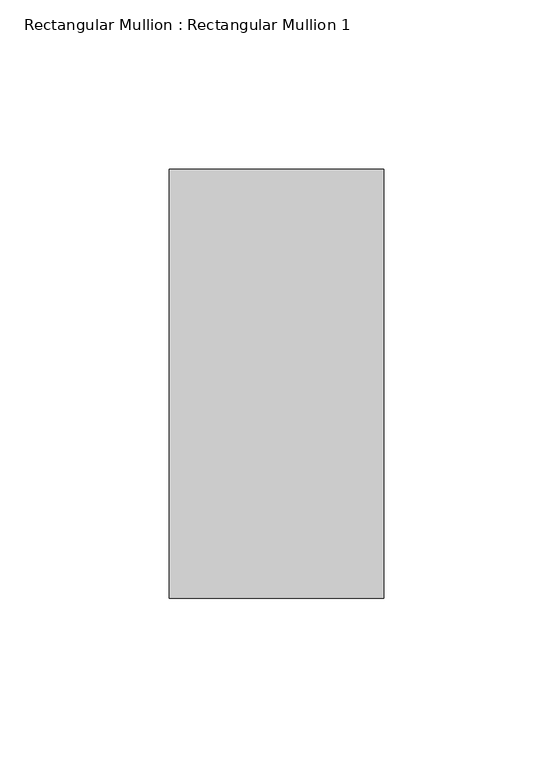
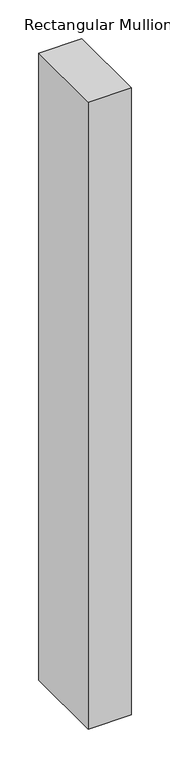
"""IFC4 building model written with IfcOpenShell, lengths in millimetres: member geometry, Rectangular Mullion : Rectangular Mullion 1."""

from ifc_helpers import new_model, si_unit, frame, origin, place, context, project, spatial, polyline, outline, extrude, source, transform, mapped, element, save


def rectangular_mullion_rectangular_mullion_1_ab2acac1(model_context):
    return source(origin(), model_context, "Body", "SweptSolid", [
        extrude(outline(polyline([(0.0, 63.5), (0.0, -63.5), (-63.5, -63.5), (-63.5, 63.5), (0.0, 63.5)])), frame((0.0, 0.0, -984.2499998), z_axis=(0.0, 0.0, 1.0), x_axis=(1.0, 0.0, 0.0)), (0.0, 0.0, 1.0), 984.2499998),
    ])


if __name__ == "__main__":
    model = new_model("IFC4")
    model_context = context("Model", 3, world=origin())
    ifc_project = project(units=[si_unit("LENGTHUNIT", "METRE", prefix="MILLI")], contexts=[model_context])
    site = spatial("IfcSite", under=ifc_project)
    building = spatial("IfcBuilding", under=site)
    placement = place(None, origin())
    rectangular_mullion_rectangular_mullion_1_shape = rectangular_mullion_rectangular_mullion_1_ab2acac1(model_context)
    element("IfcMember", 1, ObjectType="Rectangular Mullion : Rectangular Mullion 1", at=placement, inside=building, context=model_context, shape_type="MappedRepresentation", body=[
        mapped(rectangular_mullion_rectangular_mullion_1_shape, transform((0.0, 0.0, 0.0), x_axis=(1.0, 0.0, 0.0), y_axis=(0.0, 1.0, 0.0), z_axis=(0.0, 0.0, 1.0))),
    ])
    save(model, "model.ifc")
